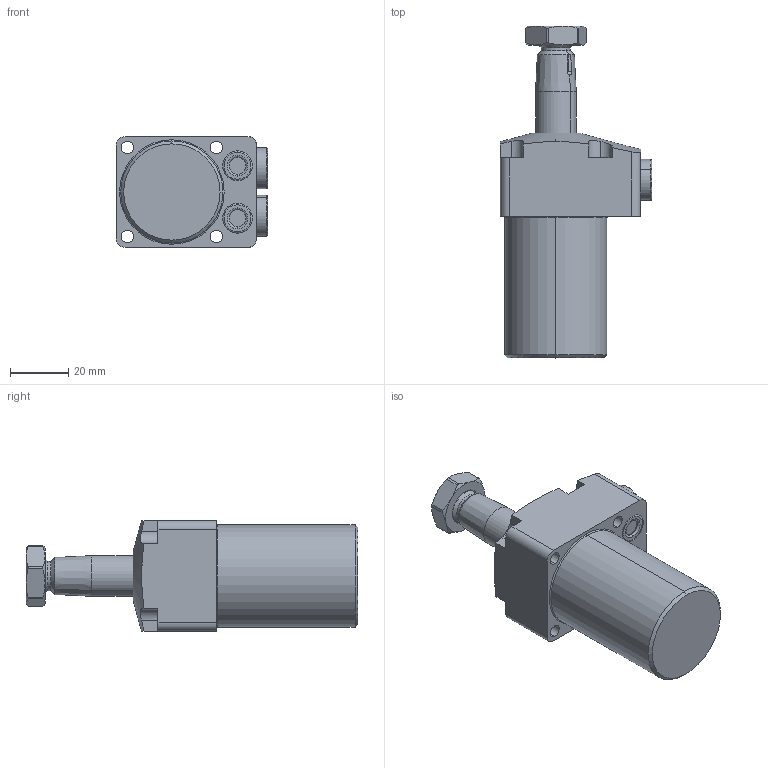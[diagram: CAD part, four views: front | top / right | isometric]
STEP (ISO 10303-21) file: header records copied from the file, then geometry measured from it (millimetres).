
FILE_DESCRIPTION(/* description */ (''),/* implementation_level */ '2;1');
FILE_NAME(/* name */ 'TRC01-LN45.stp',/* time_stamp */ '2025-01-04T09:45:00+08:00',/* author */ (''),/* organization */ (''),/* preprocessor_version */ 'ST-DEVELOPER v16.7',/* originating_system */ 'SIEMENS PLM Software NX 12.0',/* authorisation */ '');
FILE_SCHEMA (('AUTOMOTIVE_DESIGN { 1 0 10303 214 3 1 1 1 }'));
Length unit declared in the file: millimetre
Products named in the file (5): TRC01-LN45-04; TRC01-LN45-03; TRC01-LN45-02; TRC01-LN45-01; TRC01-LN45_stp
Assembly tree (5 placements, depth 2):
  TRC01-LN45_stp
    TRC01-LN45-01
    TRC01-LN45-02
    TRC01-LN45-03
    TRC01-LN45-04  x2
Bounding box: 51.8 x 113.7 x 38 mm (x, y, z)
Volume: 96092.8 mm3; surface area: 20314.2 mm2
Topology: 7 solids, 7 shells, 203 faces, 457 edges, 280 vertices
Faces by surface type: cylinder 73, plane 67, cone 40, torus 22, sphere 1
Entity records: 5425 total; most frequent: CARTESIAN_POINT 1151, DIRECTION 922, ORIENTED_EDGE 820, EDGE_CURVE 410, AXIS2_PLACEMENT_3D 378, VERTEX_POINT 252, EDGE_LOOP 206, CIRCLE 191
